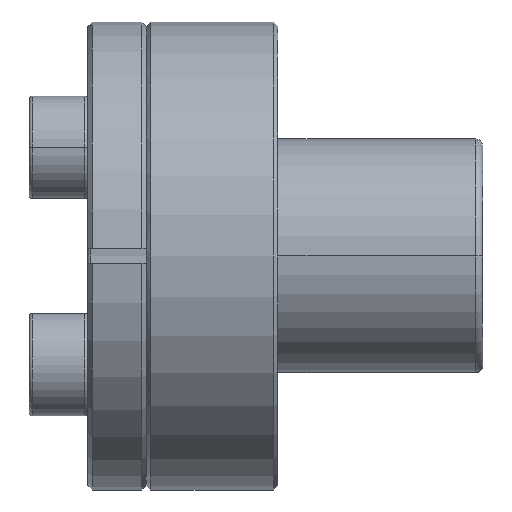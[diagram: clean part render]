
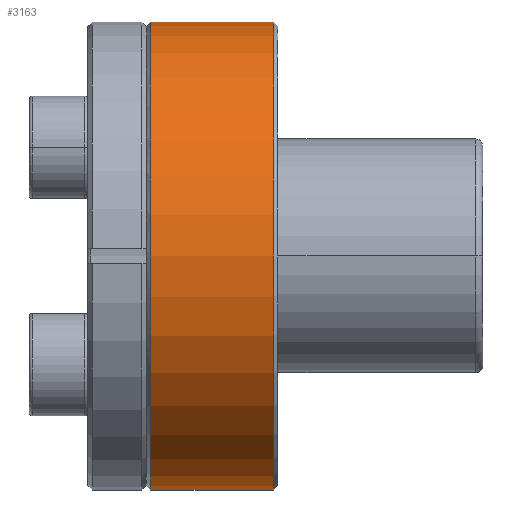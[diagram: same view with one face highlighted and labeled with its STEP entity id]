
A CAD part, front view. The second image highlights one B-rep face of the part: STEP entity #3163.
In plain terms, the highlighted cylindrical face has radius 16 mm (diameter 32 mm), a partial arc.
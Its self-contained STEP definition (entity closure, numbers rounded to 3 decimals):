
#141 = VECTOR ( 'NONE', #4720, 1000. ) ;
#344 = DIRECTION ( 'NONE',  ( -1., 0., 0. ) ) ;
#369 = LINE ( 'NONE', #4181, #141 ) ;
#413 = CARTESIAN_POINT ( 'NONE',  ( 12.7, 0., 16. ) ) ;
#529 = CARTESIAN_POINT ( 'NONE',  ( 4.3, 0., -16. ) ) ;
#823 = VERTEX_POINT ( 'NONE', #6073 ) ;
#866 = CARTESIAN_POINT ( 'NONE',  ( 13., 0., -16. ) ) ;
#961 = LINE ( 'NONE', #866, #2372 ) ;
#982 = ORIENTED_EDGE ( 'NONE', *, *, #5742, .T. ) ;
#1140 = ORIENTED_EDGE ( 'NONE', *, *, #5784, .T. ) ;
#1287 = DIRECTION ( 'NONE',  ( 0., 0., -1. ) ) ;
#1408 = DIRECTION ( 'NONE',  ( 0., 0., 1. ) ) ;
#1454 = CYLINDRICAL_SURFACE ( 'NONE', #2970, 16. ) ;
#1604 = AXIS2_PLACEMENT_3D ( 'NONE', #5603, #3198, #1287 ) ;
#1690 = EDGE_CURVE ( 'NONE', #823, #3947, #961, .T. ) ;
#2083 = ORIENTED_EDGE ( 'NONE', *, *, #1690, .F. ) ;
#2357 = DIRECTION ( 'NONE',  ( 0., 0., -1. ) ) ;
#2372 = VECTOR ( 'NONE', #344, 1000. ) ;
#2417 = EDGE_LOOP ( 'NONE', ( #2083, #1140, #982, #5199 ) ) ;
#2771 = CARTESIAN_POINT ( 'NONE',  ( 13., 0., 0. ) ) ;
#2815 = DIRECTION ( 'NONE',  ( -1., 0., 0. ) ) ;
#2848 = CIRCLE ( 'NONE', #4536, 16. ) ;
#2885 = FACE_OUTER_BOUND ( 'NONE', #2417, .T. ) ;
#2970 = AXIS2_PLACEMENT_3D ( 'NONE', #2771, #5260, #1408 ) ;
#3163 = ADVANCED_FACE ( 'NONE', ( #2885 ), #1454, .T. ) ;
#3198 = DIRECTION ( 'NONE',  ( 1., 0., 0. ) ) ;
#3226 = VERTEX_POINT ( 'NONE', #5795 ) ;
#3831 = CARTESIAN_POINT ( 'NONE',  ( 12.7, 0., 0. ) ) ;
#3947 = VERTEX_POINT ( 'NONE', #529 ) ;
#4181 = CARTESIAN_POINT ( 'NONE',  ( 13., 0., 16. ) ) ;
#4196 = EDGE_CURVE ( 'NONE', #3226, #3947, #6145, .T. ) ;
#4536 = AXIS2_PLACEMENT_3D ( 'NONE', #3831, #2815, #2357 ) ;
#4720 = DIRECTION ( 'NONE',  ( -1., 0., 0. ) ) ;
#5199 = ORIENTED_EDGE ( 'NONE', *, *, #4196, .T. ) ;
#5260 = DIRECTION ( 'NONE',  ( -1., 0., 0. ) ) ;
#5603 = CARTESIAN_POINT ( 'NONE',  ( 4.3, 0., 0. ) ) ;
#5742 = EDGE_CURVE ( 'NONE', #5826, #3226, #369, .T. ) ;
#5784 = EDGE_CURVE ( 'NONE', #823, #5826, #2848, .T. ) ;
#5795 = CARTESIAN_POINT ( 'NONE',  ( 4.3, 0., 16. ) ) ;
#5826 = VERTEX_POINT ( 'NONE', #413 ) ;
#6073 = CARTESIAN_POINT ( 'NONE',  ( 12.7, 0., -16. ) ) ;
#6145 = CIRCLE ( 'NONE', #1604, 16. ) ;
